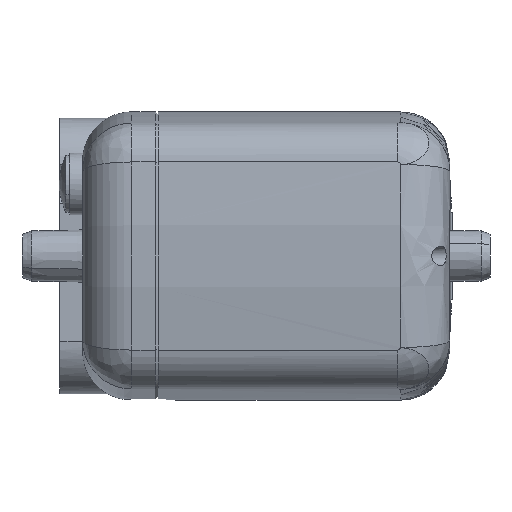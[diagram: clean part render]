
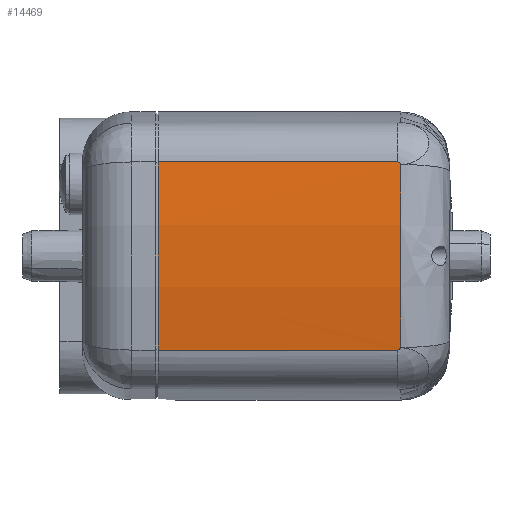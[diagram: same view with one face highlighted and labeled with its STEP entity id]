
A CAD part, left-side view. The second image highlights one B-rep face of the part: STEP entity #14469.
In plain terms, the highlighted cylindrical face has radius 100 mm (diameter 200 mm), a partial arc.
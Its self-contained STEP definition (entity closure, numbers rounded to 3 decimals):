
#10 = CARTESIAN_POINT ( 'NONE',  ( -32.223, -7., -13.942 ) ) ;
#205 = DIRECTION ( 'NONE',  ( 0., 0., 1. ) ) ;
#1286 = CARTESIAN_POINT ( 'NONE',  ( -32.196, -6.987, 14.135 ) ) ;
#1336 = CYLINDRICAL_SURFACE ( 'NONE', #14545, 100. ) ;
#1353 = AXIS2_PLACEMENT_3D ( 'NONE', #19448, #21448, #17914 ) ;
#2064 = B_SPLINE_CURVE_WITH_KNOTS ( 'NONE', 3,
 ( #22901, #6957, #1286, #15865 ),
 .UNSPECIFIED., .F., .F.,
 ( 4, 4 ),
 ( 0., 1. ),
 .UNSPECIFIED. ) ;
#2697 = EDGE_CURVE ( 'NONE', #15754, #9225, #13569, .T. ) ;
#2790 = AXIS2_PLACEMENT_3D ( 'NONE', #18282, #21478, #205 ) ;
#3092 = DIRECTION ( 'NONE',  ( 0., 0., 1. ) ) ;
#4163 = ORIENTED_EDGE ( 'NONE', *, *, #20376, .T. ) ;
#4429 = CARTESIAN_POINT ( 'NONE',  ( -32.165, 0., 14.347 ) ) ;
#5705 = CARTESIAN_POINT ( 'NONE',  ( -32.165, -6.794, -14.347 ) ) ;
#5745 = VERTEX_POINT ( 'NONE', #18382 ) ;
#5829 = DIRECTION ( 'NONE',  ( 0., -1., 0. ) ) ;
#6669 = FACE_OUTER_BOUND ( 'NONE', #10639, .T. ) ;
#6957 = CARTESIAN_POINT ( 'NONE',  ( -32.165, -6.794, 14.347 ) ) ;
#7131 = DIRECTION ( 'NONE',  ( 0., 1., 0. ) ) ;
#7590 = EDGE_CURVE ( 'NONE', #9225, #15251, #2064, .T. ) ;
#7696 = CARTESIAN_POINT ( 'NONE',  ( -32.165, -14.5, -14.347 ) ) ;
#9091 = VERTEX_POINT ( 'NONE', #19861 ) ;
#9095 = CARTESIAN_POINT ( 'NONE',  ( -32.165, -6.598, -14.347 ) ) ;
#9225 = VERTEX_POINT ( 'NONE', #12556 ) ;
#9360 = LINE ( 'NONE', #7696, #12474 ) ;
#9813 = EDGE_CURVE ( 'NONE', #16010, #5745, #9360, .T. ) ;
#10639 = EDGE_LOOP ( 'NONE', ( #14506, #21298, #12501, #4163, #17195, #14485 ) ) ;
#10730 = B_SPLINE_CURVE_WITH_KNOTS ( 'NONE', 3,
 ( #10, #18084, #5705, #9095 ),
 .UNSPECIFIED., .F., .F.,
 ( 4, 4 ),
 ( 0., 1. ),
 .UNSPECIFIED. ) ;
#12474 = VECTOR ( 'NONE', #5829, 1000. ) ;
#12501 = ORIENTED_EDGE ( 'NONE', *, *, #17718, .F. ) ;
#12556 = CARTESIAN_POINT ( 'NONE',  ( -32.165, -6.598, 14.347 ) ) ;
#13569 = LINE ( 'NONE', #4429, #16467 ) ;
#14114 = CIRCLE ( 'NONE', #1353, 100. ) ;
#14469 = ADVANCED_FACE ( 'NONE', ( #6669 ), #1336, .T. ) ;
#14485 = ORIENTED_EDGE ( 'NONE', *, *, #2697, .F. ) ;
#14506 = ORIENTED_EDGE ( 'NONE', *, *, #22734, .F. ) ;
#14545 = AXIS2_PLACEMENT_3D ( 'NONE', #21314, #7131, #3092 ) ;
#15035 = CARTESIAN_POINT ( 'NONE',  ( -32.165, 30., -14.347 ) ) ;
#15251 = VERTEX_POINT ( 'NONE', #22378 ) ;
#15754 = VERTEX_POINT ( 'NONE', #22795 ) ;
#15865 = CARTESIAN_POINT ( 'NONE',  ( -32.223, -7., 13.942 ) ) ;
#16010 = VERTEX_POINT ( 'NONE', #15035 ) ;
#16467 = VECTOR ( 'NONE', #20842, 1000. ) ;
#17195 = ORIENTED_EDGE ( 'NONE', *, *, #7590, .F. ) ;
#17718 = EDGE_CURVE ( 'NONE', #9091, #5745, #10730, .T. ) ;
#17914 = DIRECTION ( 'NONE',  ( 0., 0., 1. ) ) ;
#18084 = CARTESIAN_POINT ( 'NONE',  ( -32.196, -6.99, -14.135 ) ) ;
#18282 = CARTESIAN_POINT ( 'NONE',  ( 66.8, -7., 0. ) ) ;
#18382 = CARTESIAN_POINT ( 'NONE',  ( -32.165, -6.598, -14.347 ) ) ;
#19448 = CARTESIAN_POINT ( 'NONE',  ( 66.8, 30., 0. ) ) ;
#19861 = CARTESIAN_POINT ( 'NONE',  ( -32.223, -7., -13.942 ) ) ;
#20376 = EDGE_CURVE ( 'NONE', #9091, #15251, #22627, .T. ) ;
#20842 = DIRECTION ( 'NONE',  ( 0., -1., 0. ) ) ;
#21298 = ORIENTED_EDGE ( 'NONE', *, *, #9813, .T. ) ;
#21314 = CARTESIAN_POINT ( 'NONE',  ( 66.8, -14.5, 0. ) ) ;
#21448 = DIRECTION ( 'NONE',  ( 0., 1., 0. ) ) ;
#21478 = DIRECTION ( 'NONE',  ( 0., 1., 0. ) ) ;
#22378 = CARTESIAN_POINT ( 'NONE',  ( -32.223, -7., 13.942 ) ) ;
#22627 = CIRCLE ( 'NONE', #2790, 100. ) ;
#22734 = EDGE_CURVE ( 'NONE', #16010, #15754, #14114, .T. ) ;
#22795 = CARTESIAN_POINT ( 'NONE',  ( -32.165, 30., 14.347 ) ) ;
#22901 = CARTESIAN_POINT ( 'NONE',  ( -32.165, -6.598, 14.347 ) ) ;
